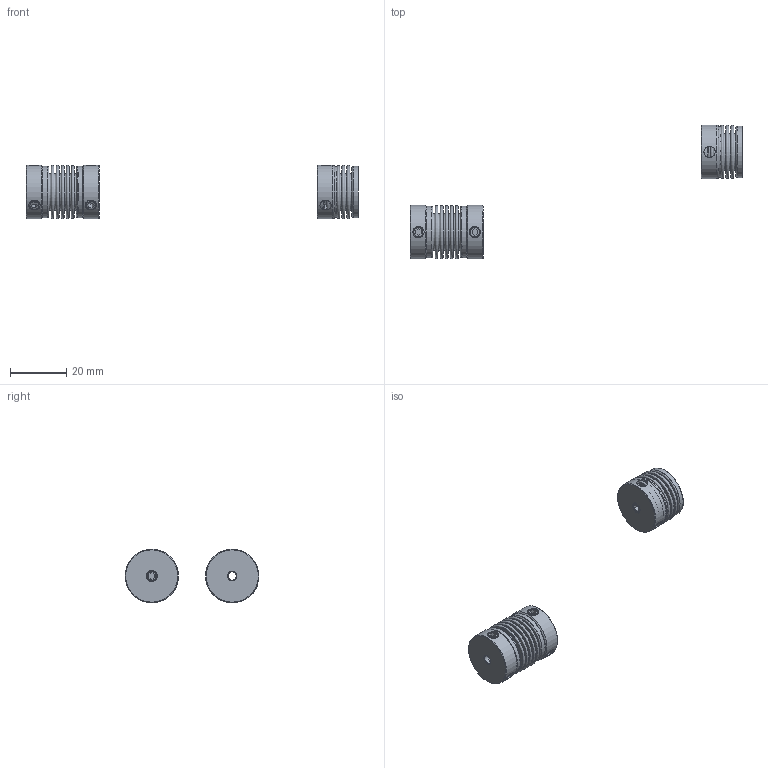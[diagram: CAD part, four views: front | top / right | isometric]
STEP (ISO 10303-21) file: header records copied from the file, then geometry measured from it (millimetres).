
FILE_DESCRIPTION( ( 'Unknown' ), '1' );
FILE_NAME( 'C:/Dokumente und Einstellungen/Sven/Desktop/cad - homepage/KB1/KB1-15-26.stp', 'Unknown', ( 'Unknown' ), ( 'Unknown' ), 'XStep 1.0', 'Unknown', ' ' );
FILE_SCHEMA( ( 'automotive_design' ) );
Length unit declared in the file: millimetre
Products named in the file (4): Assem1; Socket Set Screw Cup Point_DIN_DIN 916 - M4 x 6-N; MN15_Standard; BK15_Standard
Bounding box: 118 x 47.57 x 19 mm (x, y, z)
Volume: 6769.4 mm3; surface area: 13237.6 mm2
Topology: 10 solids, 10 shells, 211 faces, 427 edges, 275 vertices
Faces by surface type: plane 104, torus 52, cylinder 28, cone 27
Full cylindrical faces by diameter (mm): 3 x3, 4 x11, 18 x7, 18.3 x4, 19 x3
Entity records: 2123 total; most frequent: CARTESIAN_POINT 471, DIRECTION 342, ORIENTED_EDGE 196, AXIS2_PLACEMENT_3D 161, EDGE_LOOP 155, FACE_OUTER_BOUND 117, EDGE_CURVE 98, VERTEX_POINT 90
